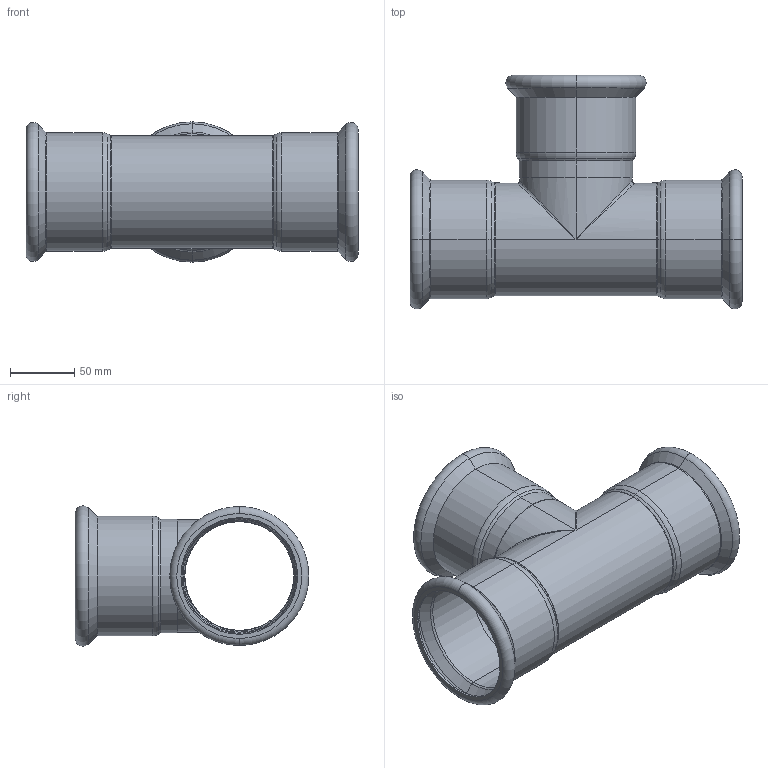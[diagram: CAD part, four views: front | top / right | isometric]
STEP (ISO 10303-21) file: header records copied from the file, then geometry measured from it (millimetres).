
FILE_DESCRIPTION (( 'STEP AP203' ), '1' );
FILE_NAME ('GDA5189.STEP', '2019-01-21T09:37:42', ( '' ), ( '' ), 'SwSTEP 2.0', 'SolidWorks 2015', '' );
FILE_SCHEMA (( 'CONFIG_CONTROL_DESIGN' ));
Length unit declared in the file: millimetre
Products named in the file (3): T(R)-¢ñ-88.9¡Á76.1''; GDA5189; T-ｉ-01-88.9
Assembly tree (2 placements, depth 2):
  GDA5189
    T(R)-¢ñ-88.9¡Á76.1''
    T-ｉ-01-88.9
Bounding box: 259 x 182.24 x 109.47 mm (x, y, z)
Volume: 169473 mm3; surface area: 207416.2 mm2
Topology: 2 solids, 2 shells, 111 faces, 228 edges, 120 vertices
Faces by surface type: torus 44, cylinder 31, cone 24, plane 8, bspline 4
Entity records: 4255 total; most frequent: CARTESIAN_POINT 1566, DIRECTION 596, ORIENTED_EDGE 448, AXIS2_PLACEMENT_3D 270, EDGE_CURVE 224, CIRCLE 158, EDGE_LOOP 120, VERTEX_POINT 120
